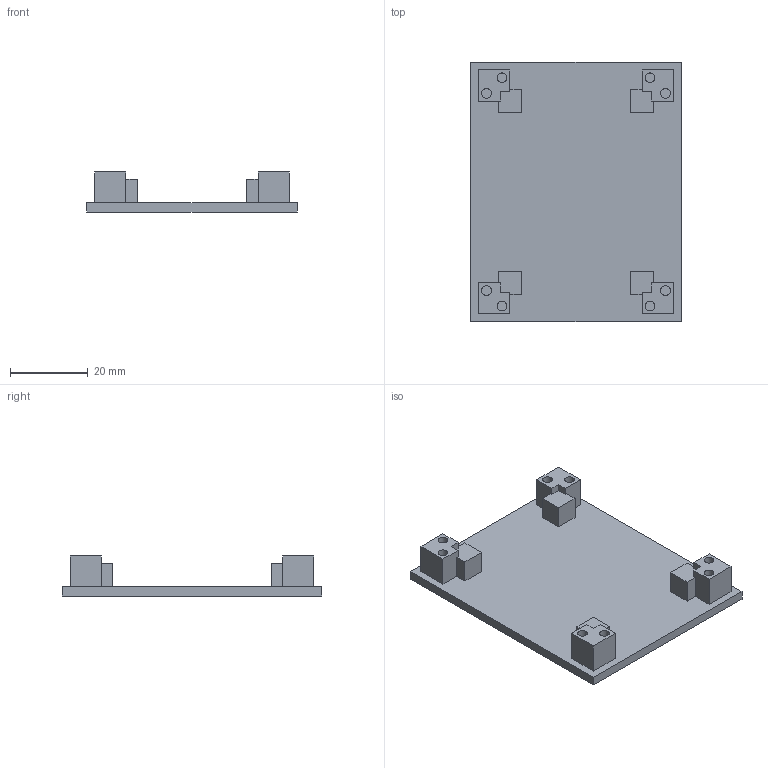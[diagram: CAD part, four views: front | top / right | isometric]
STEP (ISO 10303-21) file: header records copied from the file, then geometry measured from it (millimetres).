
FILE_DESCRIPTION(('Open CASCADE Model'),'2;1');
FILE_NAME('Open CASCADE Shape Model','2026-10-08T14:25:45',('Author'),( 'Open CASCADE'),'Open CASCADE STEP processor 7.9','Open CASCADE 7.9' ,'Unknown');
FILE_SCHEMA(('AUTOMOTIVE_DESIGN { 1 0 10303 214 1 1 1 1 }'));
Length unit declared in the file: millimetre
Products named in the file (1): Open CASCADE STEP translator 7.9 1
Bounding box: 54.1 x 66.8 x 10.3 mm (x, y, z)
Volume: 11017.4 mm3; surface area: 9553.4 mm2
Topology: 1 solids, 1 shells, 70 faces, 168 edges, 112 vertices
Faces by surface type: plane 62, cylinder 8
Full cylindrical faces by diameter (mm): 2.5 x8
Entity records: 4138 total; most frequent: CARTESIAN_POINT 751, DIRECTION 598, LINE 408, VECTOR 408, ORIENTED_EDGE 336, PCURVE 336, DEFINITIONAL_REPRESENTATION 336, EDGE_CURVE 168
